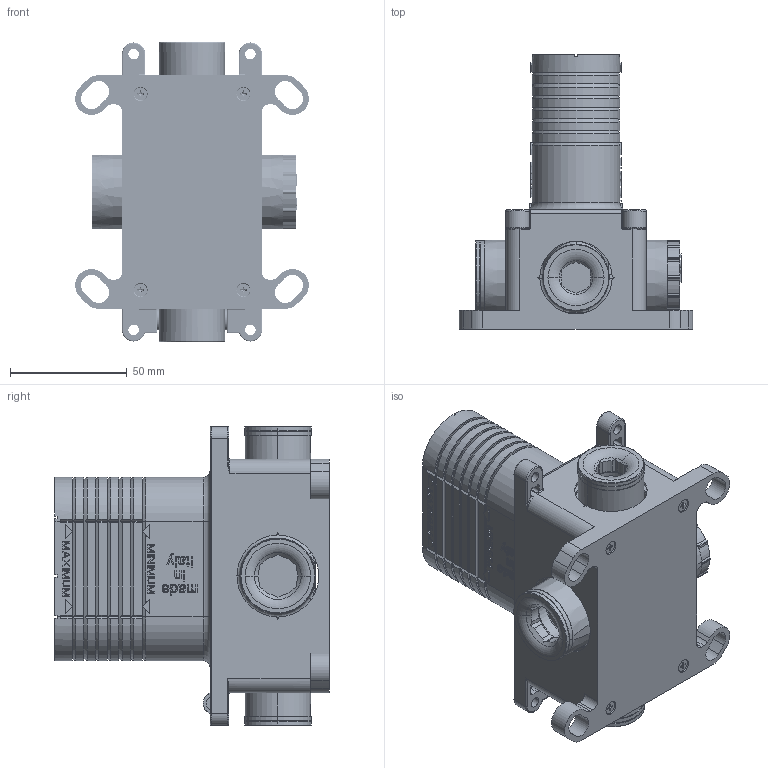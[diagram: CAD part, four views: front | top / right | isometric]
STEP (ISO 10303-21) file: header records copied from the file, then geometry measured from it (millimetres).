
FILE_DESCRIPTION((''),'2;1');
FILE_NAME('F4020_FILE_3D','2020-11-25T17:20:16',('ivanv'),(''),'CREO PARAMETRIC BY PTC INC, 2020053','CREO PARAMETRIC BY PTC INC, 2020053','');
FILE_SCHEMA(('CONFIG_CONTROL_DESIGN'));
Products named in the file (1): F4020_FILE_3D
Bounding box: 99.98 x 117.5 x 128 mm (x, y, z)
Volume: 228766.5 mm3; surface area: 141956.3 mm2
Topology: 2 solids, 2 shells, 3994 faces, 10654 edges, 6751 vertices
Faces by surface type: plane 1952, cylinder 993, extrusion 414, bspline 339, cone 123, torus 121, sphere 52
Entity records: 169540 total; most frequent: CARTESIAN_POINT 75294, ORIENTED_EDGE 21196, DIRECTION 16489, EDGE_CURVE 10598, VECTOR 6909, VERTEX_POINT 6826, LINE 6495, AXIS2_PLACEMENT_3D 4790
